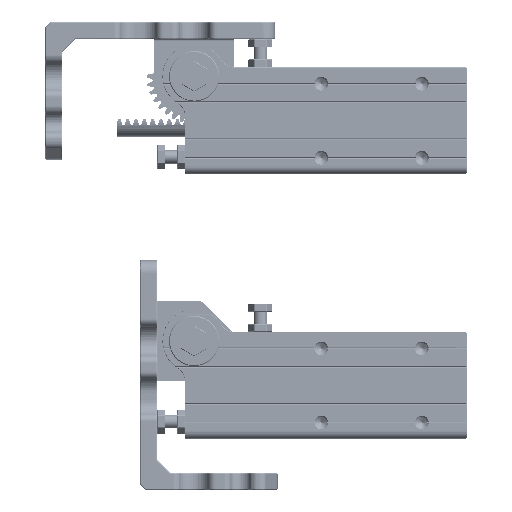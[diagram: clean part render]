
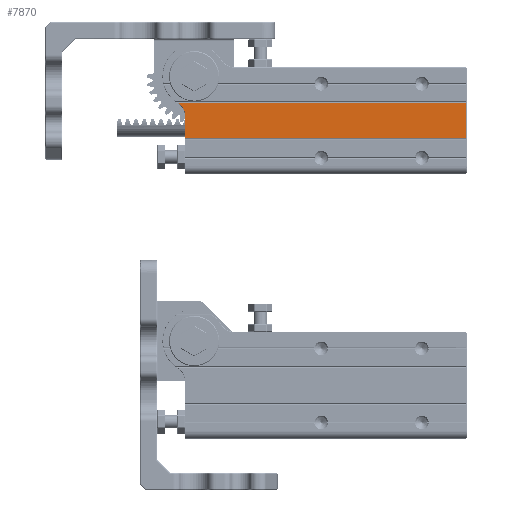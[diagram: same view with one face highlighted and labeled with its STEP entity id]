
A CAD part, left-side view. The second image highlights one B-rep face of the part: STEP entity #7870.
In plain terms, the highlighted planar face has unit normal (-1, 0, 0).
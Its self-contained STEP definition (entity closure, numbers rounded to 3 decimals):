
#4336=FACE_OUTER_BOUND('',#15712,.T.);
#7870=ADVANCED_FACE('',(#4336),#11018,.T.);
#11018=PLANE('',#73449);
#15712=EDGE_LOOP('',(#45550,#45551,#45552,#45553,#45554));
#22791=LINE('',#148494,#30293);
#22792=LINE('',#148497,#30294);
#22793=LINE('',#148499,#30295);
#22794=LINE('',#148503,#30296);
#30293=VECTOR('',#87759,1.);
#30294=VECTOR('',#87760,1.);
#30295=VECTOR('',#87761,1.);
#30296=VECTOR('',#87764,1.);
#45550=ORIENTED_EDGE('',*,*,#65343,.T.);
#45551=ORIENTED_EDGE('',*,*,#65344,.T.);
#45552=ORIENTED_EDGE('',*,*,#65345,.T.);
#45553=ORIENTED_EDGE('',*,*,#65346,.T.);
#45554=ORIENTED_EDGE('',*,*,#65347,.T.);
#56661=VERTEX_POINT('',#148495);
#56662=VERTEX_POINT('',#148496);
#56663=VERTEX_POINT('',#148498);
#56664=VERTEX_POINT('',#148500);
#56665=VERTEX_POINT('',#148502);
#65343=EDGE_CURVE('',#56661,#56662,#22791,.T.);
#65344=EDGE_CURVE('',#56662,#56663,#22792,.T.);
#65345=EDGE_CURVE('',#56663,#56664,#22793,.T.);
#65346=EDGE_CURVE('',#56664,#56665,#69492,.T.);
#65347=EDGE_CURVE('',#56665,#56661,#22794,.T.);
#69492=CIRCLE('',#73448,6.2);
#73448=AXIS2_PLACEMENT_3D('',#148501,#87762,#87763);
#73449=AXIS2_PLACEMENT_3D('',#148504,#87765,#87766);
#87759=DIRECTION('',(0.,-1.,0.));
#87760=DIRECTION('',(0.,0.,1.));
#87761=DIRECTION('',(0.,1.,0.));
#87762=DIRECTION('',(1.,0.,0.));
#87763=DIRECTION('',(0.,0.,1.));
#87764=DIRECTION('',(0.,0.,-1.));
#87765=DIRECTION('',(-1.,0.,0.));
#87766=DIRECTION('',(0.,0.,-1.));
#148494=CARTESIAN_POINT('',(-26.,-26.121,93.374));
#148495=CARTESIAN_POINT('',(-26.,106.3,93.374));
#148496=CARTESIAN_POINT('',(-26.,0.5,93.374));
#148497=CARTESIAN_POINT('',(-26.,0.5,106.626));
#148498=CARTESIAN_POINT('',(-26.,0.5,106.626));
#148499=CARTESIAN_POINT('',(-26.,109.557,106.626));
#148500=CARTESIAN_POINT('',(-26.,108.997,106.626));
#148501=CARTESIAN_POINT('',(-26.,112.5,101.511));
#148502=CARTESIAN_POINT('',(-26.,106.3,101.511));
#148503=CARTESIAN_POINT('',(-26.,106.3,93.374));
#148504=CARTESIAN_POINT('',(-26.,112.5,101.511));
